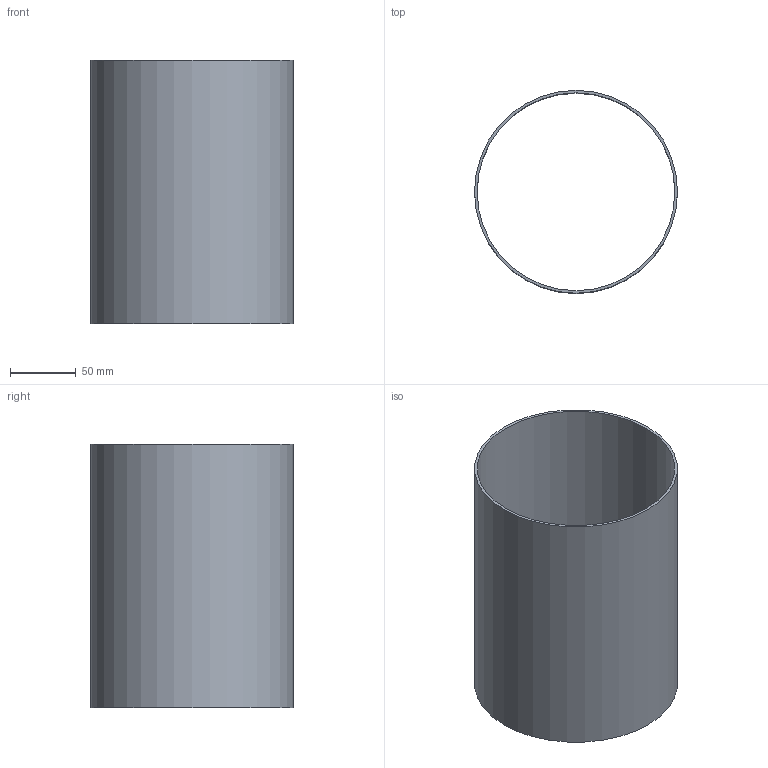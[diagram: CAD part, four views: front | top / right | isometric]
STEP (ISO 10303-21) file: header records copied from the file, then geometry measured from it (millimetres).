
FILE_DESCRIPTION(('Open CASCADE Model'),'2;1');
FILE_NAME('Open CASCADE Shape Model','2026-10-19T10:09:26',('Author'),( 'Open CASCADE'),'Open CASCADE STEP processor 8.0','Open CASCADE 8.0' ,'Unknown');
FILE_SCHEMA(('AUTOMOTIVE_DESIGN { 1 0 10303 214 1 1 1 1 }'));
Length unit declared in the file: millimetre
Products named in the file (1): CUELLO_CAPTACION_SUP_DN150_AISI304_L200 161
Bounding box: 154 x 154 x 200 mm (x, y, z)
Volume: 191008.8 mm3; surface area: 192918.9 mm2
Topology: 1 solids, 1 shells, 4 faces, 6 edges, 4 vertices
Faces by surface type: cylinder 2, plane 2
Full cylindrical faces by diameter (mm): 150 x1, 154 x1
Entity records: 186 total; most frequent: DIRECTION 32, CARTESIAN_POINT 27, ORIENTED_EDGE 12, PCURVE 12, DEFINITIONAL_REPRESENTATION 12, LINE 10, VECTOR 10, AXIS2_PLACEMENT_3D 9
